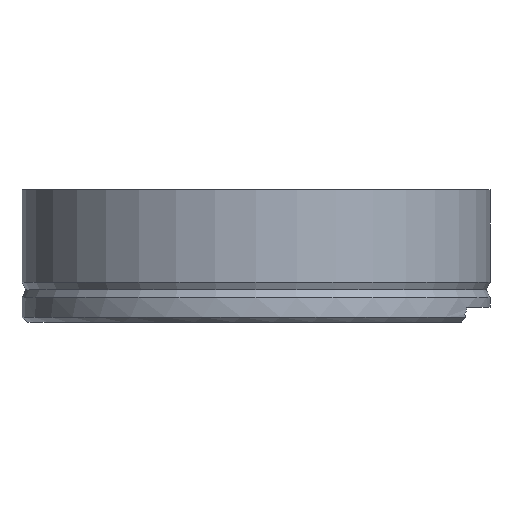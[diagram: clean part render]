
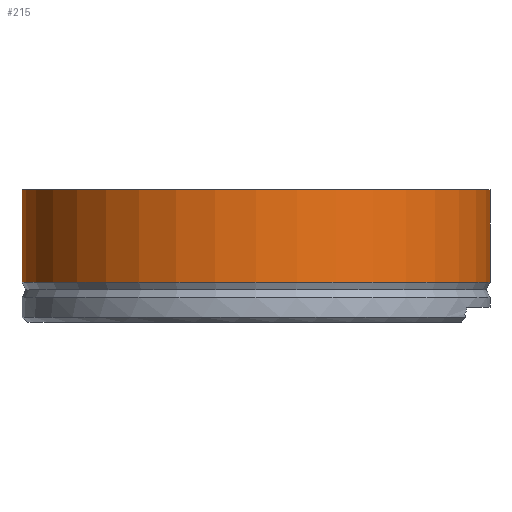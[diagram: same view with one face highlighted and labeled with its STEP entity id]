
A CAD part, front view. The second image highlights one B-rep face of the part: STEP entity #215.
In plain terms, the highlighted cylindrical face has radius 47 mm (diameter 94 mm), a full revolution.
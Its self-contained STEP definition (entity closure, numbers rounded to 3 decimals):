
#215=ADVANCED_FACE('',(#292,#293),#271,.T.);
#271=CYLINDRICAL_SURFACE('',#919,47.);
#292=FACE_BOUND('',#347,.T.);
#293=FACE_BOUND('',#348,.T.);
#347=EDGE_LOOP('',(#434));
#348=EDGE_LOOP('',(#435));
#434=ORIENTED_EDGE('',*,*,#746,.F.);
#435=ORIENTED_EDGE('',*,*,#747,.F.);
#664=VERTEX_POINT('',#1320);
#665=VERTEX_POINT('',#1322);
#746=EDGE_CURVE('',#664,#664,#861,.T.);
#747=EDGE_CURVE('',#665,#665,#862,.T.);
#861=CIRCLE('',#917,47.);
#862=CIRCLE('',#918,47.);
#917=AXIS2_PLACEMENT_3D('',#1319,#1034,#1035);
#918=AXIS2_PLACEMENT_3D('',#1321,#1036,#1037);
#919=AXIS2_PLACEMENT_3D('',#1323,#1038,#1039);
#1034=DIRECTION('',(0.,0.,1.));
#1035=DIRECTION('',(1.,0.,0.));
#1036=DIRECTION('',(0.,0.,-1.));
#1037=DIRECTION('',(-1.,0.,0.));
#1038=DIRECTION('',(0.,0.,-1.));
#1039=DIRECTION('',(-1.,0.,0.));
#1319=CARTESIAN_POINT('',(0.,0.,0.6));
#1320=CARTESIAN_POINT('',(47.,0.,0.6));
#1321=CARTESIAN_POINT('',(0.,0.,-18.));
#1322=CARTESIAN_POINT('',(-47.,0.,-18.));
#1323=CARTESIAN_POINT('',(0.,0.,0.6));
